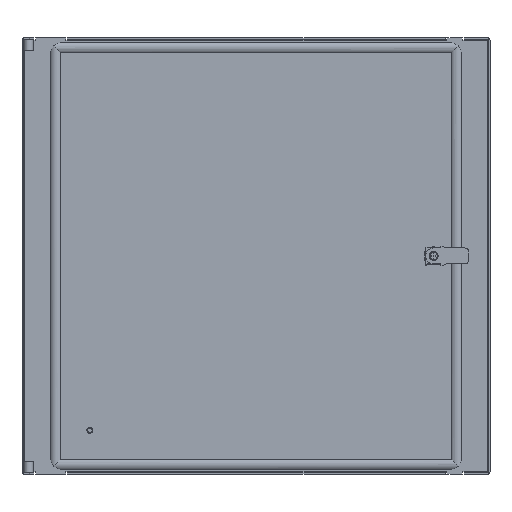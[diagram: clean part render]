
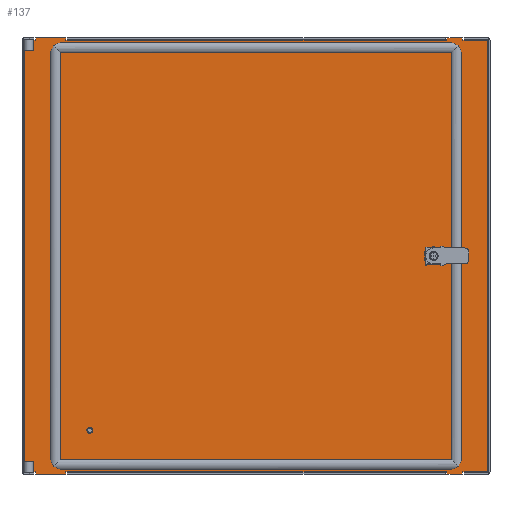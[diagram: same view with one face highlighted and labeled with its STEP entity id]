
A CAD part, top view. The second image highlights one B-rep face of the part: STEP entity #137.
In plain terms, the highlighted planar face has unit normal (0, 0, 1).
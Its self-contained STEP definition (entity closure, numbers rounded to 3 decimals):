
#137=ADVANCED_FACE('',(#702,#704,#706),#708,.T.);
#702=FACE_BOUND('',#703,.T.);
#703=EDGE_LOOP('',(#3435,#3436,#3437,#3438,#3439,#3440,#3441,#3442,#3443,#3444,#3445,
#3446,#3447,#3448,#3449,#3450,#3451,#3452,#3453,#3454,#3455,#3456,#3457,#3458,#3459,
#3460,#3461,#3462));
#704=FACE_BOUND('',#705,.T.);
#705=EDGE_LOOP('',(#3463));
#706=FACE_BOUND('',#707,.T.);
#707=EDGE_LOOP('',(#3464,#3465,#3466,#3467));
#708=PLANE('',#709);
#709=AXIS2_PLACEMENT_3D('',#710,#711,#712);
#710=CARTESIAN_POINT('',(0.,0.,2.));
#711=DIRECTION('',(0.,0.,1.));
#712=DIRECTION('',(1.,0.,0.));
#3435=ORIENTED_EDGE('',*,*,#5245,.F.);
#3436=ORIENTED_EDGE('',*,*,#5225,.F.);
#3437=ORIENTED_EDGE('',*,*,#5152,.F.);
#3438=ORIENTED_EDGE('',*,*,#5246,.F.);
#3439=ORIENTED_EDGE('',*,*,#5247,.F.);
#3440=ORIENTED_EDGE('',*,*,#5248,.F.);
#3441=ORIENTED_EDGE('',*,*,#5249,.F.);
#3442=ORIENTED_EDGE('',*,*,#5221,.F.);
#3443=ORIENTED_EDGE('',*,*,#5156,.F.);
#3444=ORIENTED_EDGE('',*,*,#5250,.F.);
#3445=ORIENTED_EDGE('',*,*,#5251,.F.);
#3446=ORIENTED_EDGE('',*,*,#5252,.F.);
#3447=ORIENTED_EDGE('',*,*,#5253,.F.);
#3448=ORIENTED_EDGE('',*,*,#5254,.F.);
#3449=ORIENTED_EDGE('',*,*,#5255,.F.);
#3450=ORIENTED_EDGE('',*,*,#5176,.F.);
#3451=ORIENTED_EDGE('',*,*,#5149,.F.);
#3452=ORIENTED_EDGE('',*,*,#5256,.T.);
#3453=ORIENTED_EDGE('',*,*,#5257,.T.);
#3454=ORIENTED_EDGE('',*,*,#5258,.T.);
#3455=ORIENTED_EDGE('',*,*,#5143,.F.);
#3456=ORIENTED_EDGE('',*,*,#5174,.F.);
#3457=ORIENTED_EDGE('',*,*,#5141,.F.);
#3458=ORIENTED_EDGE('',*,*,#5259,.T.);
#3459=ORIENTED_EDGE('',*,*,#5260,.T.);
#3460=ORIENTED_EDGE('',*,*,#5261,.T.);
#3461=ORIENTED_EDGE('',*,*,#5135,.F.);
#3462=ORIENTED_EDGE('',*,*,#5182,.F.);
#3463=ORIENTED_EDGE('',*,*,#5133,.F.);
#3464=ORIENTED_EDGE('',*,*,#5262,.F.);
#3465=ORIENTED_EDGE('',*,*,#5263,.F.);
#3466=ORIENTED_EDGE('',*,*,#5264,.F.);
#3467=ORIENTED_EDGE('',*,*,#5265,.F.);
#5133=EDGE_CURVE('',#6052,#6052,#6053,.T.);
#5135=EDGE_CURVE('',#6056,#6057,#6058,.T.);
#5141=EDGE_CURVE('',#6067,#6069,#6070,.T.);
#5143=EDGE_CURVE('',#6072,#6073,#6074,.T.);
#5149=EDGE_CURVE('',#6083,#6085,#6086,.T.);
#5152=EDGE_CURVE('',#6088,#6091,#6092,.T.);
#5156=EDGE_CURVE('',#6096,#6099,#6100,.T.);
#5174=EDGE_CURVE('',#6069,#6072,#6129,.T.);
#5176=EDGE_CURVE('',#6085,#6132,#6133,.T.);
#5182=EDGE_CURVE('',#6141,#6056,#6143,.T.);
#5221=EDGE_CURVE('',#6099,#6206,#6207,.T.);
#5225=EDGE_CURVE('',#6091,#6213,#6214,.T.);
#5245=EDGE_CURVE('',#6213,#6141,#6244,.T.);
#5246=EDGE_CURVE('',#6245,#6088,#6246,.T.);
#5247=EDGE_CURVE('',#6247,#6245,#6248,.T.);
#5248=EDGE_CURVE('',#6249,#6247,#6250,.T.);
#5249=EDGE_CURVE('',#6206,#6249,#6251,.T.);
#5250=EDGE_CURVE('',#6252,#6096,#6253,.T.);
#5251=EDGE_CURVE('',#6254,#6252,#6255,.T.);
#5252=EDGE_CURVE('',#6256,#6254,#6257,.T.);
#5253=EDGE_CURVE('',#6258,#6256,#6259,.T.);
#5254=EDGE_CURVE('',#6260,#6258,#6261,.T.);
#5255=EDGE_CURVE('',#6132,#6260,#6262,.T.);
#5256=EDGE_CURVE('',#6083,#6263,#6264,.T.);
#5257=EDGE_CURVE('',#6263,#6265,#6266,.T.);
#5258=EDGE_CURVE('',#6265,#6073,#6267,.T.);
#5259=EDGE_CURVE('',#6067,#6268,#6269,.T.);
#5260=EDGE_CURVE('',#6268,#6270,#6271,.T.);
#5261=EDGE_CURVE('',#6270,#6057,#6272,.T.);
#5262=EDGE_CURVE('',#6273,#6274,#6275,.T.);
#5263=EDGE_CURVE('',#6276,#6273,#6277,.T.);
#5264=EDGE_CURVE('',#6278,#6276,#6279,.T.);
#5265=EDGE_CURVE('',#6274,#6278,#6280,.T.);
#6052=VERTEX_POINT('',#7567);
#6053=CIRCLE('',#7568,0.5);
#6056=VERTEX_POINT('',#7577);
#6057=VERTEX_POINT('',#7578);
#6058=LINE('',#7579,#7580);
#6067=VERTEX_POINT('',#7598);
#6069=VERTEX_POINT('',#7602);
#6070=LINE('',#7603,#7604);
#6072=VERTEX_POINT('',#7609);
#6073=VERTEX_POINT('',#7610);
#6074=LINE('',#7611,#7612);
#6083=VERTEX_POINT('',#7630);
#6085=VERTEX_POINT('',#7634);
#6086=LINE('',#7635,#7636);
#6088=VERTEX_POINT('',#7641);
#6091=VERTEX_POINT('',#7646);
#6092=LINE('',#7647,#7648);
#6096=VERTEX_POINT('',#7657);
#6099=VERTEX_POINT('',#7662);
#6100=LINE('',#7663,#7664);
#6129=LINE('',#7762,#7763);
#6132=VERTEX_POINT('',#7770);
#6133=LINE('',#7771,#7772);
#6141=VERTEX_POINT('',#7803);
#6143=LINE('',#7820,#7821);
#6206=VERTEX_POINT('',#7979);
#6207=LINE('',#7980,#7981);
#6213=VERTEX_POINT('',#7996);
#6214=LINE('',#7997,#7998);
#6244=LINE('',#8080,#8081);
#6245=VERTEX_POINT('',#8083);
#6246=LINE('',#8084,#8085);
#6247=VERTEX_POINT('',#8087);
#6248=LINE('',#8088,#8089);
#6249=VERTEX_POINT('',#8091);
#6250=LINE('',#8092,#8093);
#6251=LINE('',#8095,#8096);
#6252=VERTEX_POINT('',#8098);
#6253=LINE('',#8099,#8100);
#6254=VERTEX_POINT('',#8102);
#6255=LINE('',#8103,#8104);
#6256=VERTEX_POINT('',#8106);
#6257=LINE('',#8107,#8108);
#6258=VERTEX_POINT('',#8110);
#6259=LINE('',#8111,#8112);
#6260=VERTEX_POINT('',#8114);
#6261=LINE('',#8115,#8116);
#6262=LINE('',#8118,#8119);
#6263=VERTEX_POINT('',#8121);
#6264=LINE('',#8122,#8123);
#6265=VERTEX_POINT('',#8125);
#6266=LINE('',#8126,#8127);
#6267=LINE('',#8129,#8130);
#6268=VERTEX_POINT('',#8132);
#6269=LINE('',#8133,#8134);
#6270=VERTEX_POINT('',#8136);
#6271=LINE('',#8137,#8138);
#6272=LINE('',#8140,#8141);
#6273=VERTEX_POINT('',#8143);
#6274=VERTEX_POINT('',#8144);
#6275=LINE('',#8145,#8146);
#6276=VERTEX_POINT('',#8148);
#6277=LINE('',#8149,#8150);
#6278=VERTEX_POINT('',#8152);
#6279=LINE('',#8153,#8154);
#6280=LINE('',#8156,#8157);
#7567=CARTESIAN_POINT('',(-207.7,-218.5,2.));
#7568=AXIS2_PLACEMENT_3D('',#7569,#7570,#7571);
#7569=CARTESIAN_POINT('',(-208.2,-218.5,2.));
#7570=DIRECTION('',(0.,0.,1.));
#7571=DIRECTION('',(-1.,0.,0.));
#7577=CARTESIAN_POINT('',(260.7,-270.1,2.));
#7578=CARTESIAN_POINT('',(258.7,-270.1,2.));
#7579=CARTESIAN_POINT('',(260.7,-270.1,2.));
#7580=VECTOR('',#7581,1.);
#7581=DIRECTION('',(-1.,0.,0.));
#7598=CARTESIAN_POINT('',(239.2,-270.1,2.));
#7602=CARTESIAN_POINT('',(237.2,-270.1,2.));
#7603=CARTESIAN_POINT('',(239.2,-270.1,2.));
#7604=VECTOR('',#7605,1.);
#7605=DIRECTION('',(-1.,0.,0.));
#7609=CARTESIAN_POINT('',(-236.2,-270.1,2.));
#7610=CARTESIAN_POINT('',(-238.2,-270.1,2.));
#7611=CARTESIAN_POINT('',(-236.2,-270.1,2.));
#7612=VECTOR('',#7613,1.);
#7613=DIRECTION('',(-1.,0.,0.));
#7630=CARTESIAN_POINT('',(-276.2,-270.1,2.));
#7634=CARTESIAN_POINT('',(-278.2,-270.1,2.));
#7635=CARTESIAN_POINT('',(-276.2,-270.1,2.));
#7636=VECTOR('',#7637,1.);
#7637=DIRECTION('',(-1.,0.,0.));
#7641=CARTESIAN_POINT('',(258.7,270.1,2.));
#7646=CARTESIAN_POINT('',(260.7,270.1,2.));
#7647=CARTESIAN_POINT('',(258.7,270.1,2.));
#7648=VECTOR('',#7649,1.);
#7649=DIRECTION('',(1.,0.,0.));
#7657=CARTESIAN_POINT('',(-238.2,270.1,2.));
#7662=CARTESIAN_POINT('',(-236.2,270.1,2.));
#7663=CARTESIAN_POINT('',(-238.2,270.1,2.));
#7664=VECTOR('',#7665,1.);
#7665=DIRECTION('',(1.,0.,0.));
#7762=CARTESIAN_POINT('',(237.2,-270.1,2.));
#7763=VECTOR('',#7764,1.);
#7764=DIRECTION('',(-1.,0.,0.));
#7770=CARTESIAN_POINT('',(-289.8,-270.1,2.));
#7771=CARTESIAN_POINT('',(-278.2,-270.1,2.));
#7772=VECTOR('',#7773,1.);
#7773=DIRECTION('',(-1.,0.,0.));
#7803=CARTESIAN_POINT('',(289.8,-270.1,2.));
#7820=CARTESIAN_POINT('',(289.8,-270.1,2.));
#7821=VECTOR('',#7822,1.);
#7822=DIRECTION('',(-1.,0.,0.));
#7979=CARTESIAN_POINT('',(237.2,270.1,2.));
#7980=CARTESIAN_POINT('',(-236.2,270.1,2.));
#7981=VECTOR('',#7982,1.);
#7982=DIRECTION('',(1.,0.,0.));
#7996=CARTESIAN_POINT('',(289.8,270.1,2.));
#7997=CARTESIAN_POINT('',(260.7,270.1,2.));
#7998=VECTOR('',#7999,1.);
#7999=DIRECTION('',(1.,0.,0.));
#8080=CARTESIAN_POINT('',(289.8,270.1,2.));
#8081=VECTOR('',#8082,1.);
#8082=DIRECTION('',(0.,-1.,0.));
#8083=CARTESIAN_POINT('',(258.7,273.5,2.));
#8084=CARTESIAN_POINT('',(258.7,273.5,2.));
#8085=VECTOR('',#8086,1.);
#8086=DIRECTION('',(0.,-1.,0.));
#8087=CARTESIAN_POINT('',(239.2,273.5,2.));
#8088=CARTESIAN_POINT('',(239.2,273.5,2.));
#8089=VECTOR('',#8090,1.);
#8090=DIRECTION('',(1.,0.,0.));
#8091=CARTESIAN_POINT('',(239.2,270.1,2.));
#8092=CARTESIAN_POINT('',(239.2,270.1,2.));
#8093=VECTOR('',#8094,1.);
#8094=DIRECTION('',(0.,1.,0.));
#8095=CARTESIAN_POINT('',(237.2,270.1,2.));
#8096=VECTOR('',#8097,1.);
#8097=DIRECTION('',(1.,0.,0.));
#8098=CARTESIAN_POINT('',(-238.2,273.5,2.));
#8099=CARTESIAN_POINT('',(-238.2,273.5,2.));
#8100=VECTOR('',#8101,1.);
#8101=DIRECTION('',(0.,-1.,0.));
#8102=CARTESIAN_POINT('',(-276.2,273.5,2.));
#8103=CARTESIAN_POINT('',(-276.2,273.5,2.));
#8104=VECTOR('',#8105,1.);
#8105=DIRECTION('',(1.,0.,0.));
#8106=CARTESIAN_POINT('',(-276.2,270.1,2.));
#8107=CARTESIAN_POINT('',(-276.2,270.1,2.));
#8108=VECTOR('',#8109,1.);
#8109=DIRECTION('',(0.,1.,0.));
#8110=CARTESIAN_POINT('',(-278.2,270.1,2.));
#8111=CARTESIAN_POINT('',(-278.2,270.1,2.));
#8112=VECTOR('',#8113,1.);
#8113=DIRECTION('',(1.,0.,0.));
#8114=CARTESIAN_POINT('',(-289.8,270.1,2.));
#8115=CARTESIAN_POINT('',(-289.8,270.1,2.));
#8116=VECTOR('',#8117,1.);
#8117=DIRECTION('',(1.,0.,0.));
#8118=CARTESIAN_POINT('',(-289.8,-270.1,2.));
#8119=VECTOR('',#8120,1.);
#8120=DIRECTION('',(0.,1.,0.));
#8121=CARTESIAN_POINT('',(-276.2,-273.5,2.));
#8122=CARTESIAN_POINT('',(-276.2,-270.1,2.));
#8123=VECTOR('',#8124,1.);
#8124=DIRECTION('',(0.,-1.,0.));
#8125=CARTESIAN_POINT('',(-238.2,-273.5,2.));
#8126=CARTESIAN_POINT('',(-276.2,-273.5,2.));
#8127=VECTOR('',#8128,1.);
#8128=DIRECTION('',(1.,0.,0.));
#8129=CARTESIAN_POINT('',(-238.2,-273.5,2.));
#8130=VECTOR('',#8131,1.);
#8131=DIRECTION('',(0.,1.,0.));
#8132=CARTESIAN_POINT('',(239.2,-273.5,2.));
#8133=CARTESIAN_POINT('',(239.2,-270.1,2.));
#8134=VECTOR('',#8135,1.);
#8135=DIRECTION('',(0.,-1.,0.));
#8136=CARTESIAN_POINT('',(258.7,-273.5,2.));
#8137=CARTESIAN_POINT('',(239.2,-273.5,2.));
#8138=VECTOR('',#8139,1.);
#8139=DIRECTION('',(1.,0.,0.));
#8140=CARTESIAN_POINT('',(258.7,-273.5,2.));
#8141=VECTOR('',#8142,1.);
#8142=DIRECTION('',(0.,1.,0.));
#8143=CARTESIAN_POINT('',(233.2,-10.6,2.));
#8144=CARTESIAN_POINT('',(233.2,10.6,2.));
#8145=CARTESIAN_POINT('',(233.2,-10.6,2.));
#8146=VECTOR('',#8147,1.);
#8147=DIRECTION('',(0.,1.,0.));
#8148=CARTESIAN_POINT('',(212.,-10.6,2.));
#8149=CARTESIAN_POINT('',(212.,-10.6,2.));
#8150=VECTOR('',#8151,1.);
#8151=DIRECTION('',(1.,0.,0.));
#8152=CARTESIAN_POINT('',(212.,10.6,2.));
#8153=CARTESIAN_POINT('',(212.,10.6,2.));
#8154=VECTOR('',#8155,1.);
#8155=DIRECTION('',(0.,-1.,0.));
#8156=CARTESIAN_POINT('',(233.2,10.6,2.));
#8157=VECTOR('',#8158,1.);
#8158=DIRECTION('',(-1.,0.,0.));
